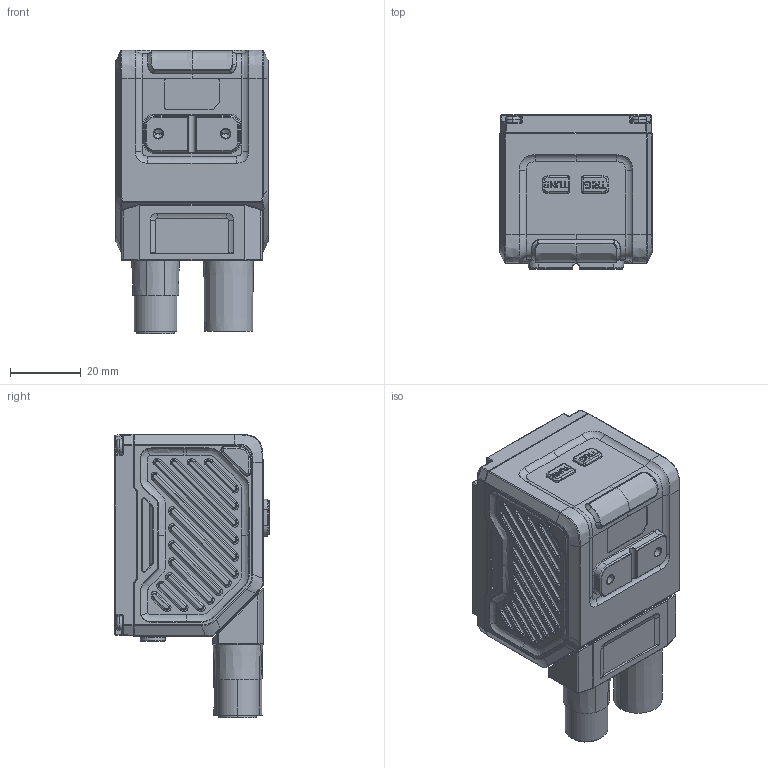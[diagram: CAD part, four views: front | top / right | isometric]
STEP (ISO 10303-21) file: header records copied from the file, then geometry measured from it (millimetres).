
FILE_DESCRIPTION((''),'2;1');
FILE_NAME('DE-13-001158','2025-07-28T14:47:45',('qinyangfan'),(''),'CREO PARAMETRIC BY PTC INC, 2020044','CREO PARAMETRIC BY PTC INC, 2020044','');
FILE_SCHEMA(('CONFIG_CONTROL_DESIGN'));
Products named in the file (1): DE-13-001158
Bounding box: 43 x 43.5 x 80.11 mm (x, y, z)
Volume: 98992.6 mm3; surface area: 28050.1 mm2
Topology: 2 solids, 29 shells, 2278 faces, 5586 edges, 3432 vertices
Faces by surface type: cylinder 849, plane 734, torus 272, cone 180, bspline 167, extrusion 68, sphere 6, revolution 2
Entity records: 92303 total; most frequent: CARTESIAN_POINT 39219, DIRECTION 11101, ORIENTED_EDGE 11048, EDGE_CURVE 5554, AXIS2_PLACEMENT_3D 4195, VERTEX_POINT 3432, VECTOR 2709, LINE 2641
